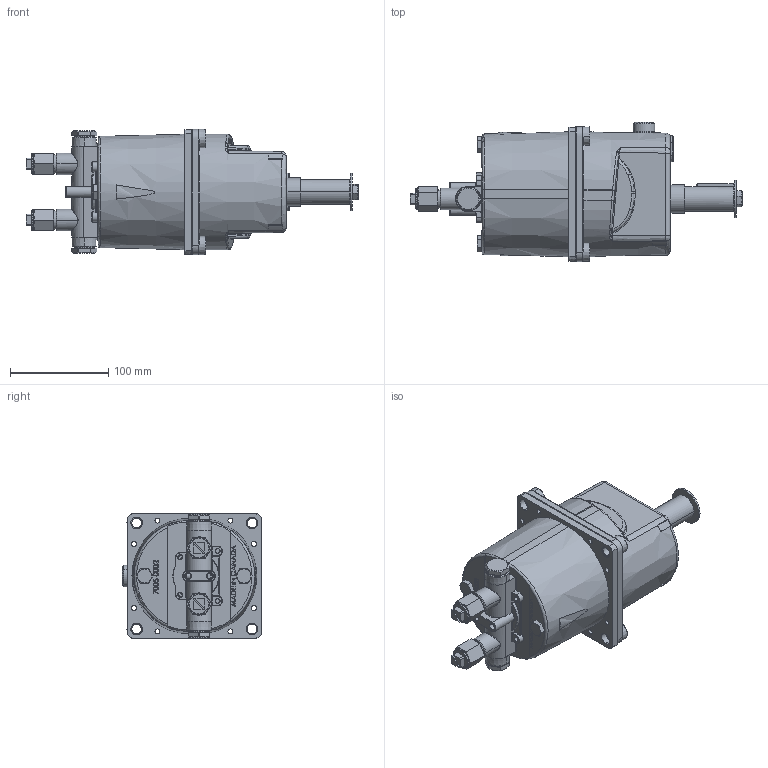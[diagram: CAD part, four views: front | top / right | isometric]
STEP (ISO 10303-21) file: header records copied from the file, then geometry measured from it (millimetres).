
FILE_DESCRIPTION (( 'STEP AP214' ), '1' );
FILE_NAME ('7005-AN_revF.STEP', '2020-10-01T16:21:51', ( '' ), ( '' ), 'SwSTEP 2.0', 'SolidWorks 2019', '' );
FILE_SCHEMA (( 'AUTOMOTIVE_DESIGN' ));
Length unit declared in the file: inch
Products named in the file (2): 7005-AN_revF
Bounding box: 337.89 x 141.77 x 127.38 mm (x, y, z)
Surface area: 159366.6 mm2 (no closed solid volume)
Topology: 0 solids, 41 shells, 999 faces, 3196 edges, 2196 vertices
Faces by surface type: plane 343, cylinder 249, bspline 173, cone 142, torus 86, sphere 6
Entity records: 62619 total; most frequent: CARTESIAN_POINT 23468, ORIENTED_EDGE 5194, DIRECTION 5017, EDGE_CURVE 3194, VERTEX_POINT 2196, AXIS2_PLACEMENT_3D 1846, VECTOR 1325, LINE 1325
